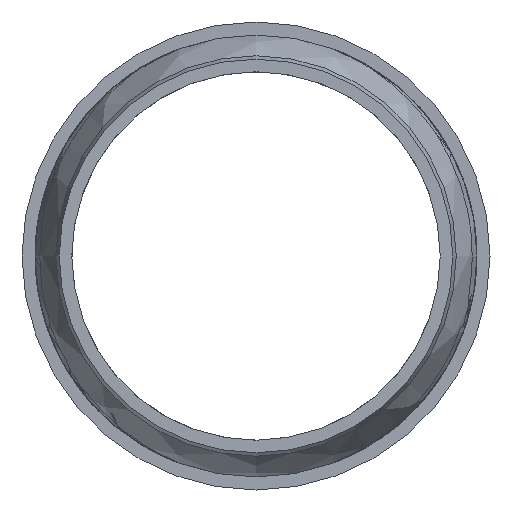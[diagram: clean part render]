
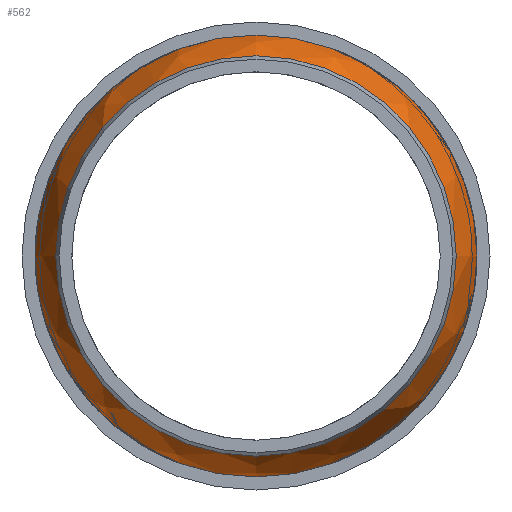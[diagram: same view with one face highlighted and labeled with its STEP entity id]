
A CAD part, left-side view. The second image highlights one B-rep face of the part: STEP entity #562.
In plain terms, the highlighted free-form (B-spline) face has degree [2, 2] with [3, 9] control points.
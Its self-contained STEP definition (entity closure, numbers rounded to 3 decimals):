
#11=(
BOUNDED_CURVE()
B_SPLINE_CURVE(2,(#2313,#2314,#2315),.UNSPECIFIED.,.F.,.F.)
B_SPLINE_CURVE_WITH_KNOTS((3,3),(0.133,0.634),
 .UNSPECIFIED.)
CURVE()
GEOMETRIC_REPRESENTATION_ITEM()
RATIONAL_B_SPLINE_CURVE((1.,0.969,1.))
REPRESENTATION_ITEM('')
);
#12=(
BOUNDED_SURFACE()
B_SPLINE_SURFACE(2,2,((#2286,#2287,#2288,#2289,#2290,#2291,#2292,#2293,
#2294),(#2295,#2296,#2297,#2298,#2299,#2300,#2301,#2302,#2303),(#2304,#2305,
#2306,#2307,#2308,#2309,#2310,#2311,#2312)),.UNSPECIFIED.,.F.,.T.,.F.)
B_SPLINE_SURFACE_WITH_KNOTS((3,3),(3,2,2,2,3),(-0.634,-0.133),
(-3.142,-1.571,0.,1.571,3.142),
 .UNSPECIFIED.)
GEOMETRIC_REPRESENTATION_ITEM()
RATIONAL_B_SPLINE_SURFACE(((1.,0.707,1.,0.707,1.,
0.707,1.,0.707,1.),(0.969,0.685,
0.969,0.685,0.969,0.685,
0.969,0.685,0.969),(1.,0.707,
1.,0.707,1.,0.707,1.,0.707,1.)))
REPRESENTATION_ITEM('')
SURFACE()
);
#147=FACE_OUTER_BOUND('',#207,.T.);
#207=EDGE_LOOP('',(#468,#469,#470,#471,#472,#473,#474));
#233=CIRCLE('',#603,69.1);
#234=CIRCLE('',#604,69.1);
#235=CIRCLE('',#605,69.1);
#241=CIRCLE('',#624,62.6);
#242=CIRCLE('',#625,62.6);
#275=VERTEX_POINT('',#1401);
#284=VERTEX_POINT('',#1947);
#285=VERTEX_POINT('',#1948);
#296=VERTEX_POINT('',#2282);
#297=VERTEX_POINT('',#2283);
#343=EDGE_CURVE('',#284,#285,#233,.T.);
#344=EDGE_CURVE('',#285,#275,#234,.T.);
#345=EDGE_CURVE('',#275,#284,#235,.T.);
#357=EDGE_CURVE('',#296,#297,#241,.T.);
#358=EDGE_CURVE('',#297,#296,#242,.T.);
#359=EDGE_CURVE('',#285,#297,#11,.T.);
#468=ORIENTED_EDGE('',*,*,#343,.F.);
#469=ORIENTED_EDGE('',*,*,#345,.F.);
#470=ORIENTED_EDGE('',*,*,#344,.F.);
#471=ORIENTED_EDGE('',*,*,#359,.T.);
#472=ORIENTED_EDGE('',*,*,#358,.T.);
#473=ORIENTED_EDGE('',*,*,#357,.T.);
#474=ORIENTED_EDGE('',*,*,#359,.F.);
#562=ADVANCED_FACE('',(#147),#12,.F.);
#603=AXIS2_PLACEMENT_3D('',#1949,#697,#698);
#604=AXIS2_PLACEMENT_3D('',#1950,#699,#700);
#605=AXIS2_PLACEMENT_3D('',#1951,#701,#702);
#624=AXIS2_PLACEMENT_3D('',#2284,#739,#740);
#625=AXIS2_PLACEMENT_3D('',#2285,#741,#742);
#697=DIRECTION('center_axis',(1.,0.,0.));
#698=DIRECTION('ref_axis',(0.,0.,
1.));
#699=DIRECTION('center_axis',(1.,0.,0.));
#700=DIRECTION('ref_axis',(0.,0.,
1.));
#701=DIRECTION('center_axis',(1.,0.,0.));
#702=DIRECTION('ref_axis',(0.,0.,
1.));
#739=DIRECTION('center_axis',(1.,0.,0.));
#740=DIRECTION('ref_axis',(0.,0.,
1.));
#741=DIRECTION('center_axis',(1.,0.,0.));
#742=DIRECTION('ref_axis',(0.,0.,
1.));
#1401=CARTESIAN_POINT('',(1013.1,69.1,0.));
#1947=CARTESIAN_POINT('',(1013.1,-69.1,0.));
#1948=CARTESIAN_POINT('',(1013.1,0.,-69.1));
#1949=CARTESIAN_POINT('Origin',(1013.1,0.,
0.));
#1950=CARTESIAN_POINT('Origin',(1013.1,0.,
0.));
#1951=CARTESIAN_POINT('Origin',(1013.1,0.,
0.));
#2282=CARTESIAN_POINT('',(997.,-62.6,0.));
#2283=CARTESIAN_POINT('',(997.,0.,-62.6));
#2284=CARTESIAN_POINT('Origin',(997.,0.,
0.));
#2285=CARTESIAN_POINT('Origin',(997.,0.,
0.));
#2286=CARTESIAN_POINT('Ctrl Pts',(997.,0.,
-62.6));
#2287=CARTESIAN_POINT('Ctrl Pts',(997.,62.6,-62.6));
#2288=CARTESIAN_POINT('Ctrl Pts',(997.,62.6,0.));
#2289=CARTESIAN_POINT('Ctrl Pts',(997.,62.6,62.6));
#2290=CARTESIAN_POINT('Ctrl Pts',(997.,0.,
62.6));
#2291=CARTESIAN_POINT('Ctrl Pts',(997.,-62.6,62.6));
#2292=CARTESIAN_POINT('Ctrl Pts',(997.,-62.6,0.));
#2293=CARTESIAN_POINT('Ctrl Pts',(997.,-62.6,-62.6));
#2294=CARTESIAN_POINT('Ctrl Pts',(997.,0.,
-62.6));
#2295=CARTESIAN_POINT('Ctrl Pts',(1004.218,0.,
-67.911));
#2296=CARTESIAN_POINT('Ctrl Pts',(1004.218,67.911,-67.911));
#2297=CARTESIAN_POINT('Ctrl Pts',(1004.218,67.911,0.));
#2298=CARTESIAN_POINT('Ctrl Pts',(1004.218,67.911,67.911));
#2299=CARTESIAN_POINT('Ctrl Pts',(1004.218,0.,
67.911));
#2300=CARTESIAN_POINT('Ctrl Pts',(1004.218,-67.911,67.911));
#2301=CARTESIAN_POINT('Ctrl Pts',(1004.218,-67.911,0.));
#2302=CARTESIAN_POINT('Ctrl Pts',(1004.218,-67.911,-67.911));
#2303=CARTESIAN_POINT('Ctrl Pts',(1004.218,0.,
-67.911));
#2304=CARTESIAN_POINT('Ctrl Pts',(1013.1,0.,
-69.1));
#2305=CARTESIAN_POINT('Ctrl Pts',(1013.1,69.1,-69.1));
#2306=CARTESIAN_POINT('Ctrl Pts',(1013.1,69.1,0.));
#2307=CARTESIAN_POINT('Ctrl Pts',(1013.1,69.1,69.1));
#2308=CARTESIAN_POINT('Ctrl Pts',(1013.1,0.,
69.1));
#2309=CARTESIAN_POINT('Ctrl Pts',(1013.1,-69.1,69.1));
#2310=CARTESIAN_POINT('Ctrl Pts',(1013.1,-69.1,0.));
#2311=CARTESIAN_POINT('Ctrl Pts',(1013.1,-69.1,-69.1));
#2312=CARTESIAN_POINT('Ctrl Pts',(1013.1,0.,
-69.1));
#2313=CARTESIAN_POINT('Ctrl Pts',(1013.1,0.,
-69.1));
#2314=CARTESIAN_POINT('Ctrl Pts',(1004.218,0.,
-67.911));
#2315=CARTESIAN_POINT('Ctrl Pts',(997.,0.,
-62.6));
